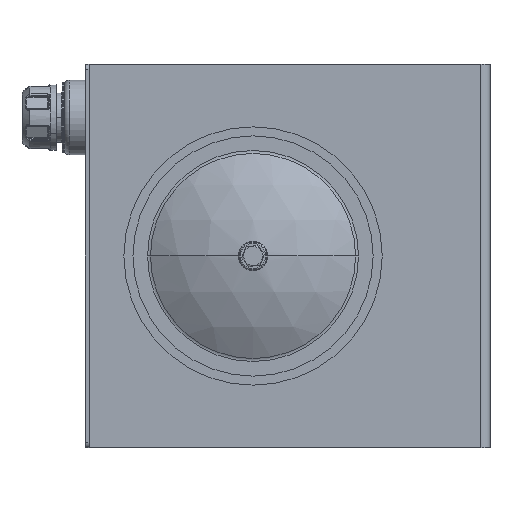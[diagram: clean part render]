
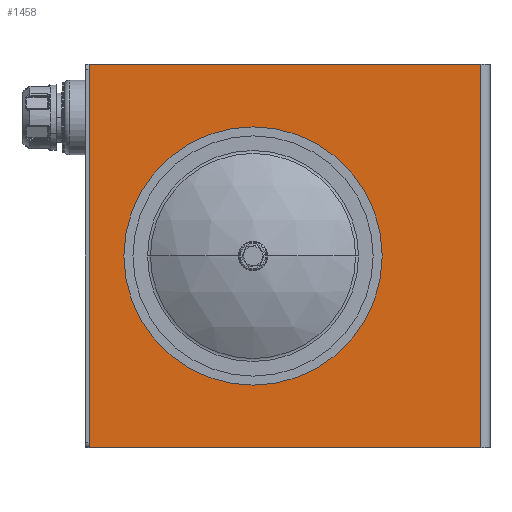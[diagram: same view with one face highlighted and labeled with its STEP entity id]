
A CAD part, left-side view. The second image highlights one B-rep face of the part: STEP entity #1458.
In plain terms, the highlighted planar face has unit normal (-1, 0, 0).
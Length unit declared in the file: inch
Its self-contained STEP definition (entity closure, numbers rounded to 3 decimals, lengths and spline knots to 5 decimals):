
#96 = ORIENTED_EDGE ( 'NONE', *, *, #10309, .F. ) ;
#130 = EDGE_CURVE ( 'NONE', #10402, #4006, #8563, .T. ) ;
#663 = ORIENTED_EDGE ( 'NONE', *, *, #5280, .F. ) ;
#1232 = VECTOR ( 'NONE', #13631, 39.37008 ) ;
#1458 = ADVANCED_FACE ( 'NONE', ( #13182, #12629 ), #19822, .F. ) ;
#1539 = ORIENTED_EDGE ( 'NONE', *, *, #13762, .T. ) ;
#2195 = CARTESIAN_POINT ( 'NONE',  ( -15.30107, -1.22548, -3.52323 ) ) ;
#2406 = CARTESIAN_POINT ( 'NONE',  ( -15.30107, -12.34798, -7.52323 ) ) ;
#2463 = CIRCLE ( 'NONE', #17690, 5. ) ;
#2943 = ORIENTED_EDGE ( 'NONE', *, *, #11336, .T. ) ;
#3022 = VECTOR ( 'NONE', #21307, 39.37008 ) ;
#3955 = VERTEX_POINT ( 'NONE', #9337 ) ;
#4006 = VERTEX_POINT ( 'NONE', #8098 ) ;
#4425 = AXIS2_PLACEMENT_3D ( 'NONE', #20476, #20472, #20448 ) ;
#4514 = DIRECTION ( 'NONE',  ( 0., 0., 1. ) ) ;
#4845 = DIRECTION ( 'NONE',  ( -1., 0., 0. ) ) ;
#5156 = CARTESIAN_POINT ( 'NONE',  ( -15.30107, -1.22548, 1.47677 ) ) ;
#5280 = EDGE_CURVE ( 'NONE', #8125, #18060, #21040, .T. ) ;
#6382 = AXIS2_PLACEMENT_3D ( 'NONE', #18870, #18371, #18307 ) ;
#7730 = EDGE_LOOP ( 'NONE', ( #2943, #12818, #1539, #16223 ) ) ;
#7911 = LINE ( 'NONE', #15785, #3022 ) ;
#8098 = CARTESIAN_POINT ( 'NONE',  ( -15.30107, 6.46452, 10.47677 ) ) ;
#8125 = VERTEX_POINT ( 'NONE', #2195 ) ;
#8563 = LINE ( 'NONE', #12107, #22072 ) ;
#9337 = CARTESIAN_POINT ( 'NONE',  ( -15.30107, -11.91868, -7.52323 ) ) ;
#10309 = EDGE_CURVE ( 'NONE', #18060, #8125, #2463, .T. ) ;
#10402 = VERTEX_POINT ( 'NONE', #23375 ) ;
#11336 = EDGE_CURVE ( 'NONE', #3955, #10402, #7911, .T. ) ;
#11680 = DIRECTION ( 'NONE',  ( 0., -1., 0. ) ) ;
#12019 = DIRECTION ( 'NONE',  ( 0., 1., 0. ) ) ;
#12107 = CARTESIAN_POINT ( 'NONE',  ( -15.30107, -12.34798, 10.47677 ) ) ;
#12629 = FACE_OUTER_BOUND ( 'NONE', #7730, .T. ) ;
#12818 = ORIENTED_EDGE ( 'NONE', *, *, #130, .T. ) ;
#13182 = FACE_BOUND ( 'NONE', #14992, .T. ) ;
#13631 = DIRECTION ( 'NONE',  ( 0., 0., -1. ) ) ;
#13762 = EDGE_CURVE ( 'NONE', #4006, #20024, #15925, .T. ) ;
#14135 = CARTESIAN_POINT ( 'NONE',  ( -15.30107, 6.46452, -7.52323 ) ) ;
#14638 = EDGE_CURVE ( 'NONE', #20024, #3955, #22059, .T. ) ;
#14992 = EDGE_LOOP ( 'NONE', ( #96, #663 ) ) ;
#15785 = CARTESIAN_POINT ( 'NONE',  ( -15.30107, -11.91868, -7.52323 ) ) ;
#15925 = LINE ( 'NONE', #19134, #1232 ) ;
#16223 = ORIENTED_EDGE ( 'NONE', *, *, #14638, .T. ) ;
#17690 = AXIS2_PLACEMENT_3D ( 'NONE', #5156, #4845, #4514 ) ;
#18060 = VERTEX_POINT ( 'NONE', #20681 ) ;
#18307 = DIRECTION ( 'NONE',  ( 0., 0., -1. ) ) ;
#18371 = DIRECTION ( 'NONE',  ( 1., 0., 0. ) ) ;
#18870 = CARTESIAN_POINT ( 'NONE',  ( -15.30107, 6.46452, -7.52323 ) ) ;
#19134 = CARTESIAN_POINT ( 'NONE',  ( -15.30107, 6.46452, -7.52323 ) ) ;
#19822 = PLANE ( 'NONE',  #6382 ) ;
#20024 = VERTEX_POINT ( 'NONE', #14135 ) ;
#20448 = DIRECTION ( 'NONE',  ( 0., 0., 1. ) ) ;
#20472 = DIRECTION ( 'NONE',  ( -1., 0., 0. ) ) ;
#20476 = CARTESIAN_POINT ( 'NONE',  ( -15.30107, -1.22548, 1.47677 ) ) ;
#20681 = CARTESIAN_POINT ( 'NONE',  ( -15.30107, -1.22548, 6.47677 ) ) ;
#21040 = CIRCLE ( 'NONE', #4425, 5. ) ;
#21307 = DIRECTION ( 'NONE',  ( 0., 0., 1. ) ) ;
#21502 = VECTOR ( 'NONE', #11680, 39.37008 ) ;
#22059 = LINE ( 'NONE', #2406, #21502 ) ;
#22072 = VECTOR ( 'NONE', #12019, 39.37008 ) ;
#23375 = CARTESIAN_POINT ( 'NONE',  ( -15.30107, -11.91868, 10.47677 ) ) ;
